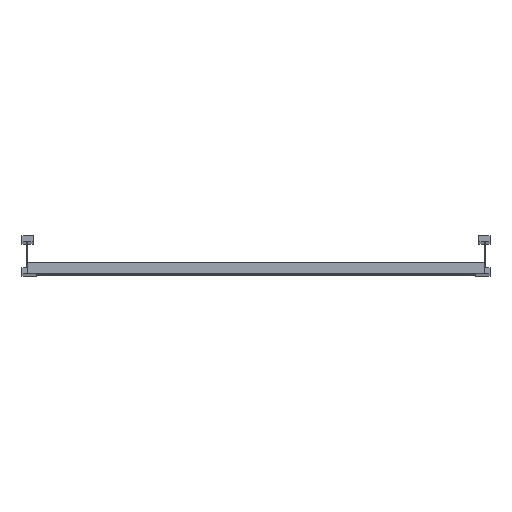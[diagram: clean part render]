
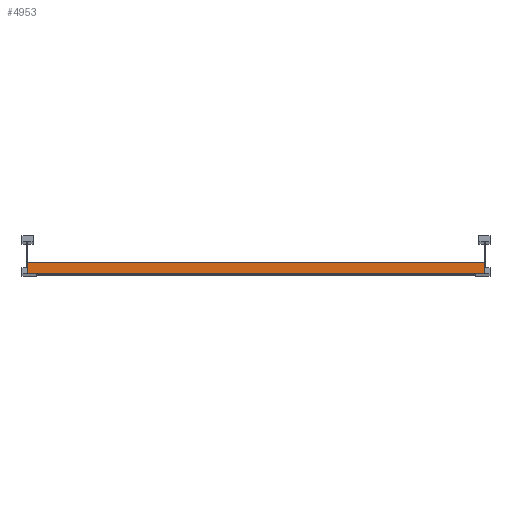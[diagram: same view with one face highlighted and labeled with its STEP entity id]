
A CAD part, top view. The second image highlights one B-rep face of the part: STEP entity #4953.
In plain terms, the highlighted planar face has unit normal (0, 0, 1).
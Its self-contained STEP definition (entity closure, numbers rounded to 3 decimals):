
#224 = EDGE_CURVE ( 'NONE', #3368, #6008, #4594, .T. ) ;
#535 = DIRECTION ( 'NONE',  ( 0., 1., 0. ) ) ;
#552 = DIRECTION ( 'NONE',  ( 0., -1., 0. ) ) ;
#956 = ORIENTED_EDGE ( 'NONE', *, *, #1714, .T. ) ;
#1008 = CARTESIAN_POINT ( 'NONE',  ( 448.5, 20., 20.25 ) ) ;
#1200 = EDGE_LOOP ( 'NONE', ( #956, #1822, #1548, #2288 ) ) ;
#1356 = CARTESIAN_POINT ( 'NONE',  ( -448.5, 20., 20.25 ) ) ;
#1476 = PLANE ( 'NONE',  #4649 ) ;
#1548 = ORIENTED_EDGE ( 'NONE', *, *, #4528, .F. ) ;
#1661 = CARTESIAN_POINT ( 'NONE',  ( 448.5, 20., 20.25 ) ) ;
#1714 = EDGE_CURVE ( 'NONE', #6008, #5394, #4402, .T. ) ;
#1822 = ORIENTED_EDGE ( 'NONE', *, *, #3902, .F. ) ;
#1843 = VECTOR ( 'NONE', #3541, 1000. ) ;
#2080 = CARTESIAN_POINT ( 'NONE',  ( -448.5, 20., 20.25 ) ) ;
#2121 = CARTESIAN_POINT ( 'NONE',  ( -448.5, 0., 20.25 ) ) ;
#2288 = ORIENTED_EDGE ( 'NONE', *, *, #224, .T. ) ;
#2358 = FACE_OUTER_BOUND ( 'NONE', #1200, .T. ) ;
#2405 = VECTOR ( 'NONE', #552, 1000. ) ;
#2581 = VERTEX_POINT ( 'NONE', #5991 ) ;
#2747 = DIRECTION ( 'NONE',  ( -1., 0., 0. ) ) ;
#3136 = LINE ( 'NONE', #5113, #1843 ) ;
#3150 = VECTOR ( 'NONE', #5671, 1000. ) ;
#3198 = CARTESIAN_POINT ( 'NONE',  ( 448.5, 20., 20.25 ) ) ;
#3368 = VERTEX_POINT ( 'NONE', #1661 ) ;
#3541 = DIRECTION ( 'NONE',  ( -1., 0., 0. ) ) ;
#3692 = CARTESIAN_POINT ( 'NONE',  ( 448.5, 20., 20.25 ) ) ;
#3701 = LINE ( 'NONE', #3198, #3150 ) ;
#3902 = EDGE_CURVE ( 'NONE', #2581, #5394, #3136, .T. ) ;
#4402 = LINE ( 'NONE', #2080, #2405 ) ;
#4528 = EDGE_CURVE ( 'NONE', #3368, #2581, #3701, .T. ) ;
#4594 = LINE ( 'NONE', #3692, #4790 ) ;
#4649 = AXIS2_PLACEMENT_3D ( 'NONE', #1008, #4825, #535 ) ;
#4790 = VECTOR ( 'NONE', #2747, 1000. ) ;
#4825 = DIRECTION ( 'NONE',  ( 0., 0., -1. ) ) ;
#4953 = ADVANCED_FACE ( 'NONE', ( #2358 ), #1476, .F. ) ;
#5113 = CARTESIAN_POINT ( 'NONE',  ( 448.5, 0., 20.25 ) ) ;
#5394 = VERTEX_POINT ( 'NONE', #2121 ) ;
#5671 = DIRECTION ( 'NONE',  ( 0., -1., 0. ) ) ;
#5991 = CARTESIAN_POINT ( 'NONE',  ( 448.5, 0., 20.25 ) ) ;
#6008 = VERTEX_POINT ( 'NONE', #1356 ) ;
